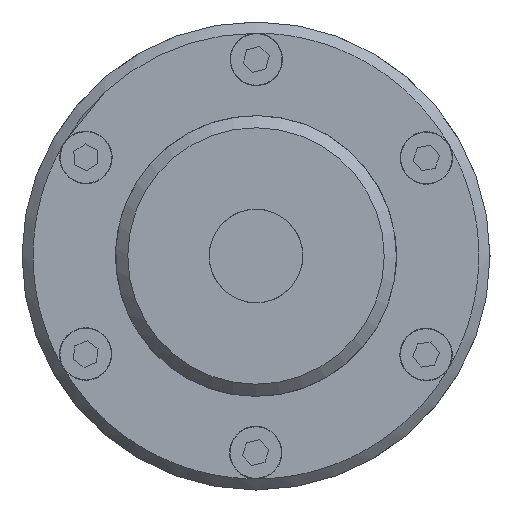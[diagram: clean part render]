
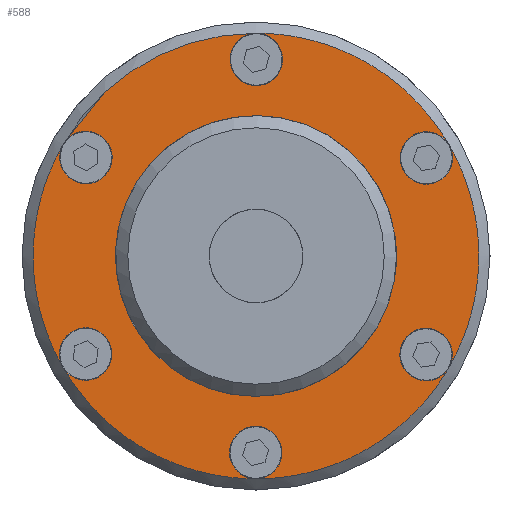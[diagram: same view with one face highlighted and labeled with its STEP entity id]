
A CAD part, left-side view. The second image highlights one B-rep face of the part: STEP entity #588.
In plain terms, the highlighted planar face has unit normal (-1, 0, 0).
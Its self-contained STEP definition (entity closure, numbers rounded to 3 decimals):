
#588 = ADVANCED_FACE( '', ( #1158, #1159 ), #1160, .F. );
#1158 = FACE_OUTER_BOUND( '', #1737, .T. );
#1159 = FACE_BOUND( '', #1738, .T. );
#1160 = PLANE( '', #1739 );
#1737 = EDGE_LOOP( '', ( #3183, #3184, #3185, #3186, #3187, #3188, #3189, #3190, #3191, #3192, #3193, #3194 ) );
#1738 = EDGE_LOOP( '', ( #3195, #3196, #3197, #3198, #3199, #3200, #3201, #3202 ) );
#1739 = AXIS2_PLACEMENT_3D( '', #3203, #3204, #3205 );
#3183 = ORIENTED_EDGE( '', *, *, #3606, .T. );
#3184 = ORIENTED_EDGE( '', *, *, #3612, .T. );
#3185 = ORIENTED_EDGE( '', *, *, #3611, .T. );
#3186 = ORIENTED_EDGE( '', *, *, #3651, .T. );
#3187 = ORIENTED_EDGE( '', *, *, #3610, .T. );
#3188 = ORIENTED_EDGE( '', *, *, #3645, .T. );
#3189 = ORIENTED_EDGE( '', *, *, #3609, .T. );
#3190 = ORIENTED_EDGE( '', *, *, #3634, .T. );
#3191 = ORIENTED_EDGE( '', *, *, #3608, .T. );
#3192 = ORIENTED_EDGE( '', *, *, #3574, .T. );
#3193 = ORIENTED_EDGE( '', *, *, #3607, .T. );
#3194 = ORIENTED_EDGE( '', *, *, #3595, .T. );
#3195 = ORIENTED_EDGE( '', *, *, #3604, .F. );
#3196 = ORIENTED_EDGE( '', *, *, #3601, .F. );
#3197 = ORIENTED_EDGE( '', *, *, #3643, .F. );
#3198 = ORIENTED_EDGE( '', *, *, #3652, .F. );
#3199 = ORIENTED_EDGE( '', *, *, #3630, .F. );
#3200 = ORIENTED_EDGE( '', *, *, #3653, .F. );
#3201 = ORIENTED_EDGE( '', *, *, #3640, .F. );
#3202 = ORIENTED_EDGE( '', *, *, #3654, .F. );
#3203 = CARTESIAN_POINT( '', ( -10., 25., 0. ) );
#3204 = DIRECTION( '', ( 1., 0., 0. ) );
#3205 = DIRECTION( '', ( 0., 1., 0. ) );
#3574 = EDGE_CURVE( '', #4226, #4226, #4227, .T. );
#3595 = EDGE_CURVE( '', #4262, #4262, #4263, .T. );
#3601 = EDGE_CURVE( '', #4273, #4268, #4275, .T. );
#3604 = EDGE_CURVE( '', #4268, #4277, #4280, .F. );
#3606 = EDGE_CURVE( '', #4262, #4283, #4284, .F. );
#3607 = EDGE_CURVE( '', #4226, #4262, #4285, .F. );
#3608 = EDGE_CURVE( '', #4286, #4226, #4287, .F. );
#3609 = EDGE_CURVE( '', #4288, #4286, #4289, .F. );
#3610 = EDGE_CURVE( '', #4290, #4288, #4291, .F. );
#3611 = EDGE_CURVE( '', #4283, #4290, #4292, .F. );
#3612 = EDGE_CURVE( '', #4283, #4283, #4293, .T. );
#3630 = EDGE_CURVE( '', #4321, #4319, #4323, .F. );
#3634 = EDGE_CURVE( '', #4286, #4286, #4329, .T. );
#3640 = EDGE_CURVE( '', #4338, #4340, #4341, .F. );
#3643 = EDGE_CURVE( '', #4343, #4273, #4345, .F. );
#3645 = EDGE_CURVE( '', #4288, #4288, #4348, .T. );
#3651 = EDGE_CURVE( '', #4290, #4290, #4356, .T. );
#3652 = EDGE_CURVE( '', #4319, #4343, #4357, .T. );
#3653 = EDGE_CURVE( '', #4340, #4321, #4358, .T. );
#3654 = EDGE_CURVE( '', #4277, #4338, #4359, .T. );
#4226 = VERTEX_POINT( '', #5470 );
#4227 = CIRCLE( '', #5471, 2.8 );
#4262 = VERTEX_POINT( '', #5506 );
#4263 = CIRCLE( '', #5507, 2.8 );
#4268 = VERTEX_POINT( '', #5512 );
#4273 = VERTEX_POINT( '', #5518 );
#4275 = CIRCLE( '', #5521, 16.5 );
#4277 = VERTEX_POINT( '', #5523 );
#4280 = CIRCLE( '', #5527, 15. );
#4283 = VERTEX_POINT( '', #5530 );
#4284 = CIRCLE( '', #5531, 23.8 );
#4285 = CIRCLE( '', #5532, 23.8 );
#4286 = VERTEX_POINT( '', #5533 );
#4287 = CIRCLE( '', #5534, 23.8 );
#4288 = VERTEX_POINT( '', #5535 );
#4289 = CIRCLE( '', #5536, 23.8 );
#4290 = VERTEX_POINT( '', #5537 );
#4291 = CIRCLE( '', #5538, 23.8 );
#4292 = CIRCLE( '', #5539, 23.8 );
#4293 = CIRCLE( '', #5540, 2.8 );
#4319 = VERTEX_POINT( '', #5584 );
#4321 = VERTEX_POINT( '', #5587 );
#4323 = CIRCLE( '', #5590, 15. );
#4329 = CIRCLE( '', #5596, 2.8 );
#4338 = VERTEX_POINT( '', #5605 );
#4340 = VERTEX_POINT( '', #5608 );
#4341 = CIRCLE( '', #5609, 7. );
#4343 = VERTEX_POINT( '', #5612 );
#4345 = CIRCLE( '', #5615, 7. );
#4348 = CIRCLE( '', #5618, 2.8 );
#4356 = CIRCLE( '', #5632, 2.8 );
#4357 = CIRCLE( '', #5633, 16.5 );
#4358 = CIRCLE( '', #5634, 16.5 );
#4359 = CIRCLE( '', #5635, 16.5 );
#5470 = CARTESIAN_POINT( '', ( -10., -20.611, 11.9 ) );
#5471 = AXIS2_PLACEMENT_3D( '', #6290, #6291, #6292 );
#5506 = CARTESIAN_POINT( '', ( -10., 0., 23.8 ) );
#5507 = AXIS2_PLACEMENT_3D( '', #6353, #6354, #6355 );
#5512 = CARTESIAN_POINT( '', ( -10., 6.818, -13.361 ) );
#5518 = CARTESIAN_POINT( '', ( -10., 1.485, -6.841 ) );
#5521 = AXIS2_PLACEMENT_3D( '', #6367, #6368, #6369 );
#5523 = CARTESIAN_POINT( '', ( -10., -6.818, -13.361 ) );
#5527 = AXIS2_PLACEMENT_3D( '', #6374, #6375, #6376 );
#5530 = CARTESIAN_POINT( '', ( -10., 20.611, 11.9 ) );
#5531 = AXIS2_PLACEMENT_3D( '', #6380, #6381, #6382 );
#5532 = AXIS2_PLACEMENT_3D( '', #6383, #6384, #6385 );
#5533 = CARTESIAN_POINT( '', ( -10., -20.611, -11.9 ) );
#5534 = AXIS2_PLACEMENT_3D( '', #6386, #6387, #6388 );
#5535 = CARTESIAN_POINT( '', ( -10., 0., -23.8 ) );
#5536 = AXIS2_PLACEMENT_3D( '', #6389, #6390, #6391 );
#5537 = CARTESIAN_POINT( '', ( -10., 20.611, -11.9 ) );
#5538 = AXIS2_PLACEMENT_3D( '', #6392, #6393, #6394 );
#5539 = AXIS2_PLACEMENT_3D( '', #6395, #6396, #6397 );
#5540 = AXIS2_PLACEMENT_3D( '', #6398, #6399, #6400 );
#5584 = CARTESIAN_POINT( '', ( -10., 6.818, 13.361 ) );
#5587 = CARTESIAN_POINT( '', ( -10., -6.818, 13.361 ) );
#5590 = AXIS2_PLACEMENT_3D( '', #6430, #6431, #6432 );
#5596 = AXIS2_PLACEMENT_3D( '', #6442, #6443, #6444 );
#5605 = CARTESIAN_POINT( '', ( -10., -1.485, -6.841 ) );
#5608 = CARTESIAN_POINT( '', ( -10., -1.485, 6.841 ) );
#5609 = AXIS2_PLACEMENT_3D( '', #6458, #6459, #6460 );
#5612 = CARTESIAN_POINT( '', ( -10., 1.485, 6.841 ) );
#5615 = AXIS2_PLACEMENT_3D( '', #6463, #6464, #6465 );
#5618 = AXIS2_PLACEMENT_3D( '', #6469, #6470, #6471 );
#5632 = AXIS2_PLACEMENT_3D( '', #6481, #6482, #6483 );
#5633 = AXIS2_PLACEMENT_3D( '', #6484, #6485, #6486 );
#5634 = AXIS2_PLACEMENT_3D( '', #6487, #6488, #6489 );
#5635 = AXIS2_PLACEMENT_3D( '', #6490, #6491, #6492 );
#6290 = CARTESIAN_POINT( '', ( -10., -18.187, 10.5 ) );
#6291 = DIRECTION( '', ( 1., 0., 0. ) );
#6292 = DIRECTION( '', ( 0., 0., -1. ) );
#6353 = CARTESIAN_POINT( '', ( -10., 0., 21. ) );
#6354 = DIRECTION( '', ( 1., 0., 0. ) );
#6355 = DIRECTION( '', ( 0., 0., -1. ) );
#6367 = CARTESIAN_POINT( '', ( -10., 16.5, 0. ) );
#6368 = DIRECTION( '', ( 1., 0., 0. ) );
#6369 = DIRECTION( '', ( 0., 0., -1. ) );
#6374 = CARTESIAN_POINT( '', ( -10., 0., 0. ) );
#6375 = DIRECTION( '', ( 1., 0., 0. ) );
#6376 = DIRECTION( '', ( 0., 0., -1. ) );
#6380 = CARTESIAN_POINT( '', ( -10., 0., 0. ) );
#6381 = DIRECTION( '', ( 1., 0., 0. ) );
#6382 = DIRECTION( '', ( 0., 0., -1. ) );
#6383 = CARTESIAN_POINT( '', ( -10., 0., 0. ) );
#6384 = DIRECTION( '', ( 1., 0., 0. ) );
#6385 = DIRECTION( '', ( 0., 0., -1. ) );
#6386 = CARTESIAN_POINT( '', ( -10., 0., 0. ) );
#6387 = DIRECTION( '', ( 1., 0., 0. ) );
#6388 = DIRECTION( '', ( 0., 0., -1. ) );
#6389 = CARTESIAN_POINT( '', ( -10., 0., 0. ) );
#6390 = DIRECTION( '', ( 1., 0., 0. ) );
#6391 = DIRECTION( '', ( 0., 0., -1. ) );
#6392 = CARTESIAN_POINT( '', ( -10., 0., 0. ) );
#6393 = DIRECTION( '', ( 1., 0., 0. ) );
#6394 = DIRECTION( '', ( 0., 0., -1. ) );
#6395 = CARTESIAN_POINT( '', ( -10., 0., 0. ) );
#6396 = DIRECTION( '', ( 1., 0., 0. ) );
#6397 = DIRECTION( '', ( 0., 0., -1. ) );
#6398 = CARTESIAN_POINT( '', ( -10., 18.187, 10.5 ) );
#6399 = DIRECTION( '', ( 1., 0., 0. ) );
#6400 = DIRECTION( '', ( 0., 0., -1. ) );
#6430 = CARTESIAN_POINT( '', ( -10., 0., 0. ) );
#6431 = DIRECTION( '', ( 1., 0., 0. ) );
#6432 = DIRECTION( '', ( 0., 0., -1. ) );
#6442 = CARTESIAN_POINT( '', ( -10., -18.187, -10.5 ) );
#6443 = DIRECTION( '', ( 1., 0., 0. ) );
#6444 = DIRECTION( '', ( 0., 0., -1. ) );
#6458 = CARTESIAN_POINT( '', ( -10., 0., 0. ) );
#6459 = DIRECTION( '', ( 1., 0., 0. ) );
#6460 = DIRECTION( '', ( 0., 0., -1. ) );
#6463 = CARTESIAN_POINT( '', ( -10., 0., 0. ) );
#6464 = DIRECTION( '', ( 1., 0., 0. ) );
#6465 = DIRECTION( '', ( 0., 0., -1. ) );
#6469 = CARTESIAN_POINT( '', ( -10., 0., -21. ) );
#6470 = DIRECTION( '', ( 1., 0., 0. ) );
#6471 = DIRECTION( '', ( 0., 0., -1. ) );
#6481 = CARTESIAN_POINT( '', ( -10., 18.187, -10.5 ) );
#6482 = DIRECTION( '', ( 1., 0., 0. ) );
#6483 = DIRECTION( '', ( 0., 0., -1. ) );
#6484 = CARTESIAN_POINT( '', ( -10., 16.5, 0. ) );
#6485 = DIRECTION( '', ( 1., 0., 0. ) );
#6486 = DIRECTION( '', ( 0., 0., -1. ) );
#6487 = CARTESIAN_POINT( '', ( -10., -16.5, 0. ) );
#6488 = DIRECTION( '', ( 1., 0., 0. ) );
#6489 = DIRECTION( '', ( 0., 0., -1. ) );
#6490 = CARTESIAN_POINT( '', ( -10., -16.5, 0. ) );
#6491 = DIRECTION( '', ( 1., 0., 0. ) );
#6492 = DIRECTION( '', ( 0., 0., -1. ) );
